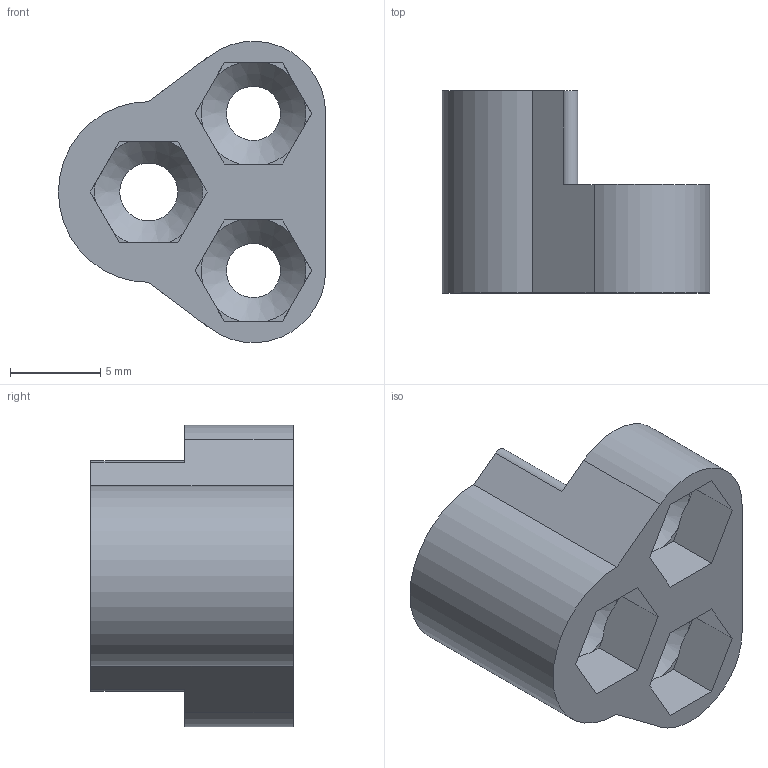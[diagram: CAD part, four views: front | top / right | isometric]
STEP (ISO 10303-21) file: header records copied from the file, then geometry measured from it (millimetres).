
FILE_DESCRIPTION(/* description */ (''),/* implementation_level */ '2;1');
FILE_NAME(/* name */ '4-33-1 Servo horn TPU.step',/* time_stamp */ '2025-05-10T22:19:52+02:00',/* author */ (''),/* organization */ (''),/* preprocessor_version */ 'ST-DEVELOPER v20.1',/* originating_system */ 'Autodesk Translation Framework v14.4.0.0',/* authorisation */ '');
FILE_SCHEMA (('AUTOMOTIVE_DESIGN { 1 0 10303 214 3 1 1 }'));
Length unit declared in the file: millimetre
Products named in the file (1): 4-33-1 Servo horn TPU
Bounding box: 14.8 x 11.2 x 16.69 mm (x, y, z)
Volume: 992.2 mm3; surface area: 1094.8 mm2
Topology: 1 solids, 1 shells, 58 faces, 165 edges, 109 vertices
Faces by surface type: plane 44, cylinder 11, cone 3
Full cylindrical faces by diameter (mm): 3 x2, 3.2 x1
Entity records: 1922 total; most frequent: CARTESIAN_POINT 369, ORIENTED_EDGE 330, DIRECTION 308, EDGE_CURVE 165, VERTEX_POINT 109, LINE 104, VECTOR 104, AXIS2_PLACEMENT_3D 102
